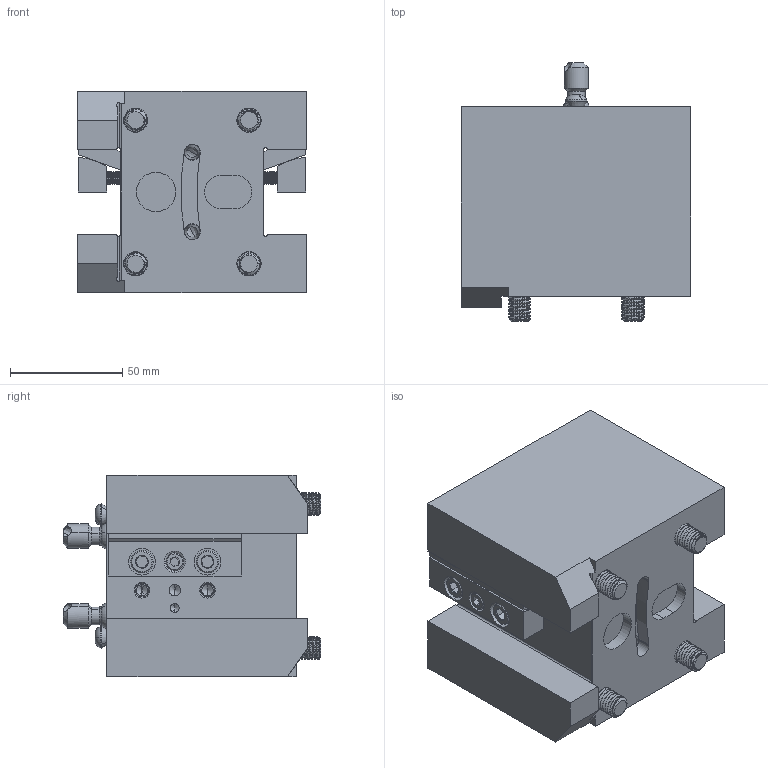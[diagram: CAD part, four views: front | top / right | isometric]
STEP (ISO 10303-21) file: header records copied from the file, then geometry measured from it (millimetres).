
FILE_DESCRIPTION (( 'STEP AP203' ), '1' );
FILE_NAME ('04-0800.STEP', '2022-07-12T16:39:26', ( '' ), ( '' ), 'SwSTEP 2.0', 'SolidWorks 2021', '' );
FILE_SCHEMA (( 'CONFIG_CONTROL_DESIGN' ));
Length unit declared in the file: inch
Products named in the file (13): 10000015933; 40-1645; 30-5841; 20-5302; 40-0032_40-0032; 20-3796; 57-0026; 04-0800; 40-0003_40-0003; 40-1626_40-1626; 10000016468; 22-8749; 20-3797
Assembly tree (26 placements, depth 3):
  04-0800
    30-5841
      20-5302
      57-0026  x2
      22-8749  x2
      40-0003_40-0003  x2
      20-3796  x2
      20-3797  x2
      40-1626_40-1626  x4
      40-1645  x2
      40-0032_40-0032  x4
      10000015933  x2
      10000016468  x2
Bounding box: 102.11 x 114.96 x 89.92 mm (x, y, z)
Volume: 657669.1 mm3; surface area: 115717.4 mm2
Topology: 25 solids, 25 shells, 1447 faces, 3820 edges, 2444 vertices
Faces by surface type: cylinder 965, cone 222, plane 216, bspline 24, torus 20
Entity records: 26462 total; most frequent: CARTESIAN_POINT 11410, ORIENTED_EDGE 2998, DIRECTION 2612, EDGE_CURVE 1499, AXIS2_PLACEMENT_3D 1007, VERTEX_POINT 964, EDGE_LOOP 665, ADVANCED_FACE 599
